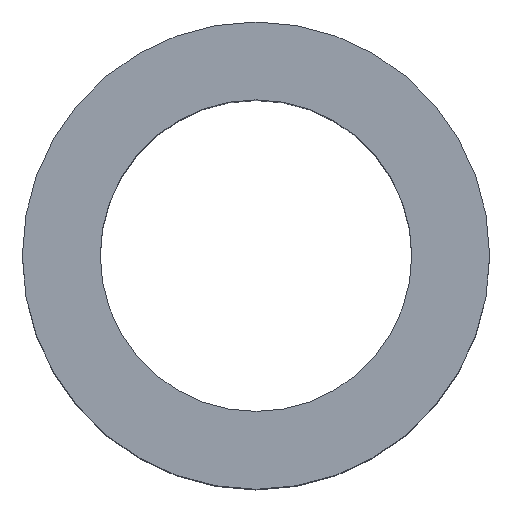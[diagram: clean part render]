
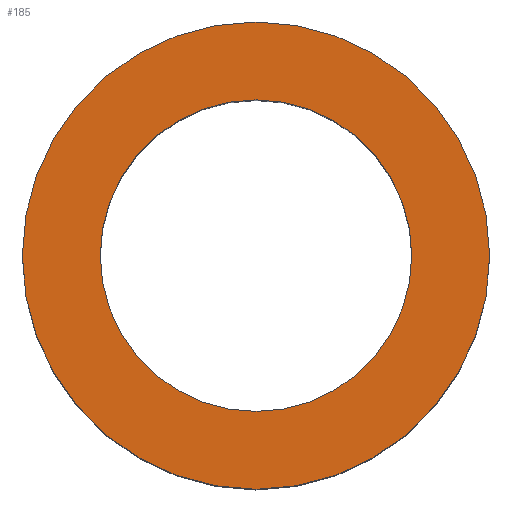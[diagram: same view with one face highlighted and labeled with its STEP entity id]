
A CAD part, top view. The second image highlights one B-rep face of the part: STEP entity #185.
In plain terms, the highlighted planar face has unit normal (0, 0, 1).
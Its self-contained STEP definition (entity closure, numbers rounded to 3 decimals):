
#185=ADVANCED_FACE('',(#211,#212),#209,.T.);
#209=PLANE('',#442);
#211=FACE_BOUND('',#215,.T.);
#212=FACE_BOUND('',#216,.T.);
#215=EDGE_LOOP('',(#241,#242));
#216=EDGE_LOOP('',(#243,#244));
#241=ORIENTED_EDGE('',*,*,#363,.T.);
#242=ORIENTED_EDGE('',*,*,#364,.T.);
#243=ORIENTED_EDGE('',*,*,#365,.F.);
#244=ORIENTED_EDGE('',*,*,#366,.F.);
#337=VERTEX_POINT('',#614);
#338=VERTEX_POINT('',#615);
#339=VERTEX_POINT('',#618);
#340=VERTEX_POINT('',#619);
#363=EDGE_CURVE('',#337,#338,#411,.T.);
#364=EDGE_CURVE('',#338,#337,#412,.T.);
#365=EDGE_CURVE('',#339,#340,#413,.T.);
#366=EDGE_CURVE('',#340,#339,#414,.T.);
#411=CIRCLE('',#438,6.);
#412=CIRCLE('',#439,6.);
#413=CIRCLE('',#440,4.);
#414=CIRCLE('',#441,4.);
#438=AXIS2_PLACEMENT_3D('',#613,#490,#491);
#439=AXIS2_PLACEMENT_3D('',#616,#492,#493);
#440=AXIS2_PLACEMENT_3D('',#617,#494,#495);
#441=AXIS2_PLACEMENT_3D('',#620,#496,#497);
#442=AXIS2_PLACEMENT_3D('',#621,#498,#499);
#490=DIRECTION('',(0.,0.,1.));
#491=DIRECTION('',(0.,-1.,0.));
#492=DIRECTION('',(0.,0.,1.));
#493=DIRECTION('',(0.,1.,0.));
#494=DIRECTION('',(0.,0.,1.));
#495=DIRECTION('',(0.,1.,0.));
#496=DIRECTION('',(0.,0.,1.));
#497=DIRECTION('',(0.,-1.,0.));
#498=DIRECTION('',(0.,0.,1.));
#499=DIRECTION('',(0.,-1.,0.));
#613=CARTESIAN_POINT('',(0.,0.,10.));
#614=CARTESIAN_POINT('',(6.,0.,10.));
#615=CARTESIAN_POINT('',(-6.,0.,10.));
#616=CARTESIAN_POINT('',(0.,0.,10.));
#617=CARTESIAN_POINT('',(0.,0.,10.));
#618=CARTESIAN_POINT('',(-4.,0.,10.));
#619=CARTESIAN_POINT('',(4.,0.,10.));
#620=CARTESIAN_POINT('',(0.,0.,10.));
#621=CARTESIAN_POINT('',(0.,0.,10.));
